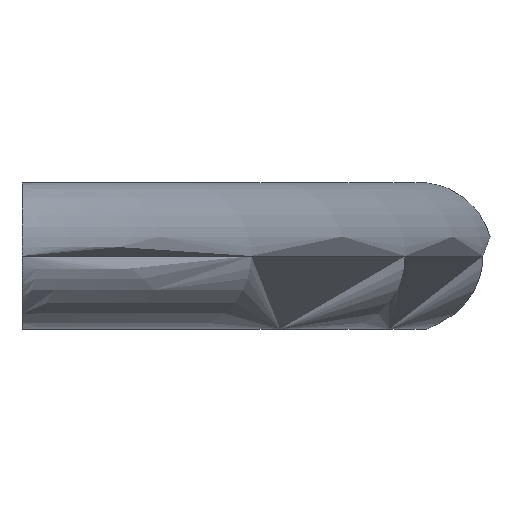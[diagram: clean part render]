
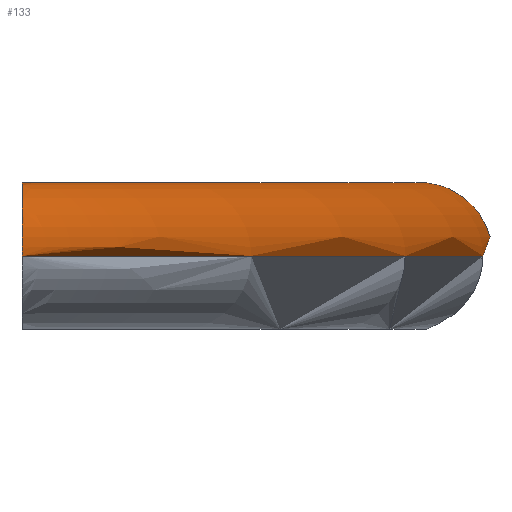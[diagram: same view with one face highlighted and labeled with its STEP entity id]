
A CAD part, left-side view. The second image highlights one B-rep face of the part: STEP entity #133.
In plain terms, the highlighted toroidal (fillet/blend) face has major radius 459.91 mm and minor radius 5 mm.
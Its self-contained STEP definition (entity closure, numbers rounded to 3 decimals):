
#65 = EDGE_CURVE( '', #73, #131, #163, .T. );
#73 = VERTEX_POINT( '', #173 );
#81 = VERTEX_POINT( '', #183 );
#91 = VERTEX_POINT( '', #194 );
#99 = EDGE_CURVE( '', #81, #131, #202, .T. );
#101 = EDGE_CURVE( '', #81, #91, #204, .T. );
#113 = EDGE_CURVE( '', #73, #91, #218, .T. );
#131 = VERTEX_POINT( '', #239 );
#133 = ADVANCED_FACE( '', ( #241 ), #242, .T. );
#163 = B_SPLINE_CURVE_WITH_KNOTS( '', 3, ( #264, #265, #266, #267, #268, #269, #270, #271, #272, #273, #274, #275, #276, #277, #278, #279, #280, #281, #282, #283, #284, #285, #286, #287, #288, #289, #290, #291, #292, #293, #294, #295, #296, #297, #298, #299, #300, #301, #302, #303 ), .UNSPECIFIED., .F., .F., ( 4, 2, 2, 2, 2, 2, 2, 2, 2, 2, 2, 2, 2, 2, 2, 2, 2, 2, 2, 4 ), ( 0., 0.295, 0.59, 0.942, 1.295, 2.472, 3.65, 5.093, 6.537, 9.424, 15.197, 21.407, 24.512, 26.065, 27.617, 30.182, 30.53, 30.877, 31.154, 31.431 ), .UNSPECIFIED. );
#173 = CARTESIAN_POINT( '', ( 313.5, 0., 0. ) );
#183 = CARTESIAN_POINT( '', ( 4.243, 0., 0. ) );
#194 = CARTESIAN_POINT( '', ( -25.5, 0., 0. ) );
#202 = CIRCLE( '', #387, 454.91 );
#204 = B_SPLINE_CURVE_WITH_KNOTS( '', 3, ( #390, #391, #392, #393, #394, #395, #396, #397, #398, #399, #400, #401, #402, #403, #404, #405, #406, #407, #408, #409, #410, #411, #412, #413, #414, #415, #416, #417, #418, #419, #420, #421, #422, #423, #424, #425, #426, #427, #428, #429 ), .UNSPECIFIED., .F., .F., ( 4, 2, 2, 2, 2, 2, 2, 2, 2, 2, 2, 2, 2, 2, 2, 2, 2, 2, 2, 4 ), ( 31.431, 31.708, 31.984, 32.332, 32.679, 35.244, 36.797, 38.349, 41.454, 47.664, 53.438, 56.325, 57.768, 59.212, 60.389, 61.566, 61.919, 62.272, 62.566, 62.861 ), .UNSPECIFIED. );
#218 = CIRCLE( '', #444, 464.91 );
#239 = CARTESIAN_POINT( '', ( 283.757, 0., 0. ) );
#241 = FACE_OUTER_BOUND( '', #475, .T. );
#242 = TOROIDAL_SURFACE( '', #476, 459.91, 5. );
#264 = CARTESIAN_POINT( '', ( 313.5, 0., 0. ) );
#265 = CARTESIAN_POINT( '', ( 313.5, 0., 0.098 ) );
#266 = CARTESIAN_POINT( '', ( 313.491, 0., 0.206 ) );
#267 = CARTESIAN_POINT( '', ( 313.455, 0., 0.418 ) );
#268 = CARTESIAN_POINT( '', ( 313.427, 0., 0.522 ) );
#269 = CARTESIAN_POINT( '', ( 313.358, 0., 0.726 ) );
#270 = CARTESIAN_POINT( '', ( 313.307, 0., 0.844 ) );
#271 = CARTESIAN_POINT( '', ( 313.185, 0., 1.071 ) );
#272 = CARTESIAN_POINT( '', ( 313.115, 0., 1.18 ) );
#273 = CARTESIAN_POINT( '', ( 312.816, 0., 1.593 ) );
#274 = CARTESIAN_POINT( '', ( 312.508, 0., 1.887 ) );
#275 = CARTESIAN_POINT( '', ( 311.83, 0., 2.403 ) );
#276 = CARTESIAN_POINT( '', ( 311.461, 0., 2.626 ) );
#277 = CARTESIAN_POINT( '', ( 310.689, 0., 3.035 ) );
#278 = CARTESIAN_POINT( '', ( 310.244, 0., 3.232 ) );
#279 = CARTESIAN_POINT( '', ( 309.324, 0., 3.585 ) );
#280 = CARTESIAN_POINT( '', ( 308.849, 0., 3.742 ) );
#281 = CARTESIAN_POINT( '', ( 307.392, 0., 4.161 ) );
#282 = CARTESIAN_POINT( '', ( 306.378, 0., 4.377 ) );
#283 = CARTESIAN_POINT( '', ( 303.294, 0., 4.872 ) );
#284 = CARTESIAN_POINT( '', ( 301.186, 0., 5. ) );
#285 = CARTESIAN_POINT( '', ( 297.192, 0., 5. ) );
#286 = CARTESIAN_POINT( '', ( 294.925, 0., 4.851 ) );
#287 = CARTESIAN_POINT( '', ( 291.594, 0., 4.33 ) );
#288 = CARTESIAN_POINT( '', ( 290.496, 0., 4.107 ) );
#289 = CARTESIAN_POINT( '', ( 288.912, 0., 3.682 ) );
#290 = CARTESIAN_POINT( '', ( 288.395, 0., 3.525 ) );
#291 = CARTESIAN_POINT( '', ( 287.389, 0., 3.173 ) );
#292 = CARTESIAN_POINT( '', ( 286.901, 0., 2.979 ) );
#293 = CARTESIAN_POINT( '', ( 285.66, 0., 2.392 ) );
#294 = CARTESIAN_POINT( '', ( 284.776, 0., 1.873 ) );
#295 = CARTESIAN_POINT( '', ( 284.166, 0., 1.118 ) );
#296 = CARTESIAN_POINT( '', ( 284.091, 0., 1.014 ) );
#297 = CARTESIAN_POINT( '', ( 283.961, 0., 0.797 ) );
#298 = CARTESIAN_POINT( '', ( 283.906, 0., 0.683 ) );
#299 = CARTESIAN_POINT( '', ( 283.832, 0., 0.488 ) );
#300 = CARTESIAN_POINT( '', ( 283.804, 0., 0.391 ) );
#301 = CARTESIAN_POINT( '', ( 283.766, 0., 0.193 ) );
#302 = CARTESIAN_POINT( '', ( 283.757, 0., 0.092 ) );
#303 = CARTESIAN_POINT( '', ( 283.757, 0., 0. ) );
#387 = AXIS2_PLACEMENT_3D( '', #572, #573, #574 );
#390 = CARTESIAN_POINT( '', ( 4.243, 0., 0. ) );
#391 = CARTESIAN_POINT( '', ( 4.243, 0., 0.092 ) );
#392 = CARTESIAN_POINT( '', ( 4.234, 0., 0.193 ) );
#393 = CARTESIAN_POINT( '', ( 4.196, 0., 0.391 ) );
#394 = CARTESIAN_POINT( '', ( 4.168, 0., 0.488 ) );
#395 = CARTESIAN_POINT( '', ( 4.094, 0., 0.683 ) );
#396 = CARTESIAN_POINT( '', ( 4.039, 0., 0.797 ) );
#397 = CARTESIAN_POINT( '', ( 3.909, 0., 1.014 ) );
#398 = CARTESIAN_POINT( '', ( 3.834, 0., 1.118 ) );
#399 = CARTESIAN_POINT( '', ( 3.224, 0., 1.873 ) );
#400 = CARTESIAN_POINT( '', ( 2.34, 0., 2.392 ) );
#401 = CARTESIAN_POINT( '', ( 1.099, 0., 2.979 ) );
#402 = CARTESIAN_POINT( '', ( 0.611, 0., 3.173 ) );
#403 = CARTESIAN_POINT( '', ( -0.395, 0., 3.525 ) );
#404 = CARTESIAN_POINT( '', ( -0.912, 0., 3.682 ) );
#405 = CARTESIAN_POINT( '', ( -2.496, 0., 4.107 ) );
#406 = CARTESIAN_POINT( '', ( -3.594, 0., 4.33 ) );
#407 = CARTESIAN_POINT( '', ( -6.925, 0., 4.851 ) );
#408 = CARTESIAN_POINT( '', ( -9.192, 0., 5. ) );
#409 = CARTESIAN_POINT( '', ( -13.186, 0., 5. ) );
#410 = CARTESIAN_POINT( '', ( -15.294, 0., 4.872 ) );
#411 = CARTESIAN_POINT( '', ( -18.378, 0., 4.377 ) );
#412 = CARTESIAN_POINT( '', ( -19.392, 0., 4.161 ) );
#413 = CARTESIAN_POINT( '', ( -20.849, 0., 3.742 ) );
#414 = CARTESIAN_POINT( '', ( -21.324, 0., 3.585 ) );
#415 = CARTESIAN_POINT( '', ( -22.244, 0., 3.232 ) );
#416 = CARTESIAN_POINT( '', ( -22.689, 0., 3.035 ) );
#417 = CARTESIAN_POINT( '', ( -23.461, 0., 2.626 ) );
#418 = CARTESIAN_POINT( '', ( -23.83, 0., 2.403 ) );
#419 = CARTESIAN_POINT( '', ( -24.508, 0., 1.887 ) );
#420 = CARTESIAN_POINT( '', ( -24.816, 0., 1.593 ) );
#421 = CARTESIAN_POINT( '', ( -25.115, 0., 1.18 ) );
#422 = CARTESIAN_POINT( '', ( -25.185, 0., 1.071 ) );
#423 = CARTESIAN_POINT( '', ( -25.307, 0., 0.844 ) );
#424 = CARTESIAN_POINT( '', ( -25.358, 0., 0.726 ) );
#425 = CARTESIAN_POINT( '', ( -25.427, 0., 0.522 ) );
#426 = CARTESIAN_POINT( '', ( -25.455, 0., 0.418 ) );
#427 = CARTESIAN_POINT( '', ( -25.491, 0., 0.206 ) );
#428 = CARTESIAN_POINT( '', ( -25.5, 0., 0.098 ) );
#429 = CARTESIAN_POINT( '', ( -25.5, 0., 0. ) );
#444 = AXIS2_PLACEMENT_3D( '', #589, #590, #591 );
#475 = EDGE_LOOP( '', ( #623, #624, #625, #626 ) );
#476 = AXIS2_PLACEMENT_3D( '', #627, #628, #629 );
#572 = CARTESIAN_POINT( '', ( 144., 432.91, 0. ) );
#573 = DIRECTION( '', ( 0., 0., 1. ) );
#574 = DIRECTION( '', ( -1., 0., 0. ) );
#589 = CARTESIAN_POINT( '', ( 144., 432.91, 0. ) );
#590 = DIRECTION( '', ( 0., 0., -1. ) );
#591 = DIRECTION( '', ( -1., 0., 0. ) );
#623 = ORIENTED_EDGE( '', *, *, #113, .F. );
#624 = ORIENTED_EDGE( '', *, *, #65, .T. );
#625 = ORIENTED_EDGE( '', *, *, #99, .F. );
#626 = ORIENTED_EDGE( '', *, *, #101, .T. );
#627 = CARTESIAN_POINT( '', ( 144., 432.91, 0. ) );
#628 = DIRECTION( '', ( 0., 0., -1. ) );
#629 = DIRECTION( '', ( -1., 0., 0. ) );
